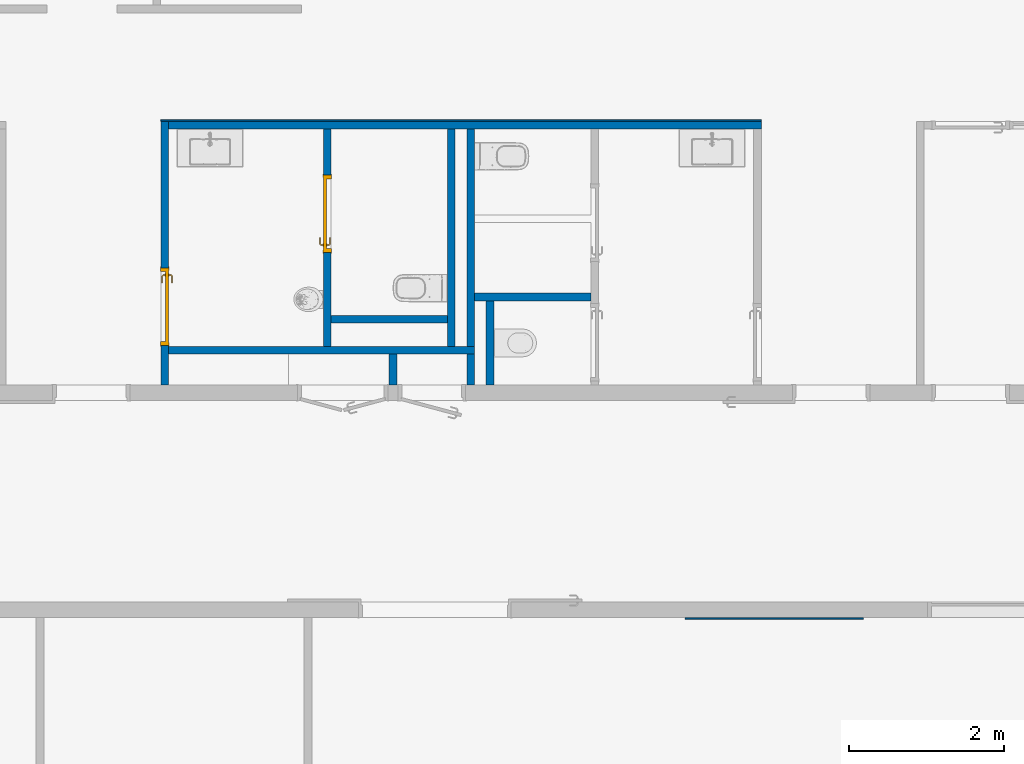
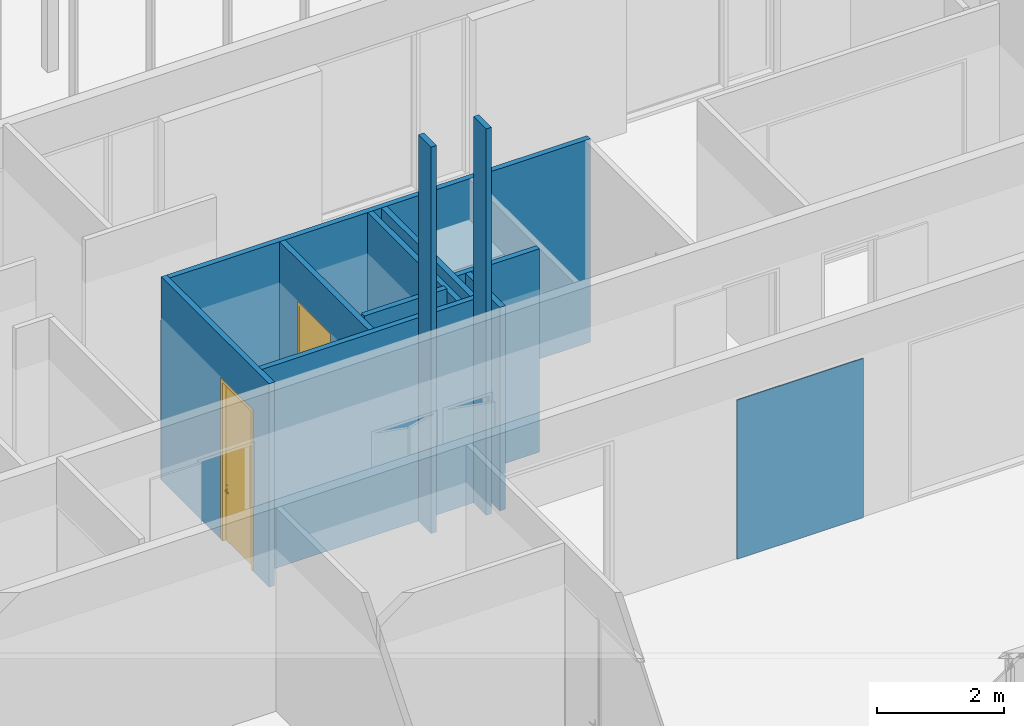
# One storey, part 169 of 240: 13 walls, 2 doors, 2 openings.
"""IFC2X3 building model written with IfcOpenShell, lengths in centimetres."""

from ifc_helpers import new_model, entity, si_unit, converted_unit, derived_unit, direction, frame, frame_2d, origin, place, context, subcontext, project, spatial, polyline, rectangle, extrude, clip, bounded_halfspace, faceted_brep, source, transform, mapped, material, material_list, layer, layer_set, layer_usage, type_object, type_shapes, element, fill, save


model = new_model("IFC2X3")

# Units and contexts
model_context = context("Model", 3, precision=0.001, world=origin(), true_north=direction((6.12303176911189e-17, 1.0)))
body_context = subcontext(model_context, "Body", "Model", "MODEL_VIEW")
ifc_project = project(units=[si_unit("LENGTHUNIT", "METRE", prefix="CENTI"), si_unit("AREAUNIT", "SQUARE_METRE"), si_unit("VOLUMEUNIT", "CUBIC_METRE"), converted_unit("PLANEANGLEUNIT", "DEGREE", entity("IfcRatioMeasure", 0.0174532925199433), si_unit("PLANEANGLEUNIT", "RADIAN"), dimensions=[0, 0, 0, 0, 0, 0, 0]), si_unit("MASSUNIT", "GRAM", prefix="KILO"), derived_unit("MASSDENSITYUNIT", [(si_unit("MASSUNIT", "GRAM", prefix="KILO"), 1), (si_unit("LENGTHUNIT", "METRE"), -3)]), si_unit("TIMEUNIT", "SECOND"), si_unit("FREQUENCYUNIT", "HERTZ"), si_unit("THERMODYNAMICTEMPERATUREUNIT", "DEGREE_CELSIUS"), derived_unit("THERMALTRANSMITTANCEUNIT", [(si_unit("MASSUNIT", "GRAM", prefix="KILO"), 1), (si_unit("THERMODYNAMICTEMPERATUREUNIT", "KELVIN"), -1), (si_unit("TIMEUNIT", "SECOND"), -3)]), derived_unit("VOLUMETRICFLOWRATEUNIT", [(si_unit("LENGTHUNIT", "METRE"), 3), (si_unit("TIMEUNIT", "SECOND"), -1)]), si_unit("ELECTRICCURRENTUNIT", "AMPERE"), si_unit("ELECTRICVOLTAGEUNIT", "VOLT"), si_unit("POWERUNIT", "WATT"), si_unit("FORCEUNIT", "NEWTON", prefix="KILO"), si_unit("ILLUMINANCEUNIT", "LUX"), si_unit("LUMINOUSFLUXUNIT", "LUMEN"), si_unit("LUMINOUSINTENSITYUNIT", "CANDELA"), derived_unit("USERDEFINED", [(si_unit("MASSUNIT", "GRAM", prefix="KILO"), -1), (si_unit("LENGTHUNIT", "METRE"), -2), (si_unit("TIMEUNIT", "SECOND"), 3), (si_unit("LUMINOUSFLUXUNIT", "LUMEN"), 1)]), derived_unit("LINEARVELOCITYUNIT", [(si_unit("LENGTHUNIT", "METRE"), 1), (si_unit("TIMEUNIT", "SECOND"), -1)]), si_unit("PRESSUREUNIT", "PASCAL"), derived_unit("USERDEFINED", [(si_unit("LENGTHUNIT", "METRE"), -2), (si_unit("MASSUNIT", "GRAM", prefix="KILO"), 1), (si_unit("TIMEUNIT", "SECOND"), -2)])], contexts=[model_context])

# Site, building, storey
site_placement = place(None, frame((-2781.94577612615, 7442.24238424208, 0.0)))
site = spatial("IfcSite", under=ifc_project, at=site_placement, Name="Default", CompositionType="ELEMENT")
building_placement = place(site_placement, origin())
building = spatial("IfcBuilding", under=site, at=building_placement, CompositionType="ELEMENT")
storey_placement = place(building_placement, origin())
storey = spatial("IfcBuildingStorey", under=building, at=storey_placement, Name="N00 - COO", CompositionType="ELEMENT", Elevation=0.0)

# Wall
ifc_material_1 = material(Name="01 - Enduit/Plâtre")
ifc_layer_1 = layer(ifc_material_1, 1.3)
ifc_material_2 = material(Name="00 - Isolant")
ifc_layer_2 = layer(ifc_material_2, 7.4)
ifc_layer_3 = layer(ifc_material_1, 1.3)
ifc_layer_set_1 = layer_set([ifc_layer_1, ifc_layer_2, ifc_layer_3], Name="Mur de base:06 - cloisons - Ba13 10cm")
ifc_layer_usage_1 = layer_usage(ifc_layer_set_1, "AXIS2", "NEGATIVE", 5.0)
wall_type_1 = type_object("IfcWallType", Name="Mur de base:06 - cloisons - Ba13 10cm", PredefinedType="STANDARD", material=ifc_layer_set_1)
wall_1_placement = place(building_placement, frame((-1589.49988284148, -1575.0, 0.0), z_axis=(0.0, 0.0, 1.0), x_axis=(-1.0, 0.0, 0.0)))
element("IfcWallStandardCase", 1, at=wall_1_placement, inside=storey, type_object=wall_type_1, material=ifc_layer_usage_1, Name="Mur de base:06 - cloisons - Ba13 10cm", ObjectType="Mur de base:06 - cloisons - Ba13 10cm", context=body_context, shape_type="Clipping", body=[
    clip(extrude(rectangle(XDim=764.500000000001, YDim=9.99999999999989, at=frame_2d((382.25, -5.6843418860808e-14), x_axis=(-1.0, 0.0))), origin(), (0.0, 0.0, 1.0), 391.0), bounded_halfspace(frame((0.0, -5.0, 391.0), z_axis=(0.0, 0.0, -1.0), x_axis=(0.0, -1.0, 0.0)), True, frame((0.0, -5.0, 391.0)), polyline([(0.0, 0.0), (764.5, 0.0), (764.5, 10.0), (565.0, 10.0), (555.0, 10.0), (405.0, 10.0), (395.0, 10.0), (380.0, 10.0), (370.0, 10.0), (220.0, 10.0), (210.0, 10.0), (10.0, 10.0), (0.0, 10.0), (0.0, 0.0)]))),
])

# Wall, opening, door
ifc_layer_usage_2 = layer_usage(ifc_layer_set_1, "AXIS2", "NEGATIVE", 5.0)
wall_2_placement = place(building_placement, frame((-2358.99988284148, -1570.0, 0.0), z_axis=(0.0, 0.0, 1.0), x_axis=(0.0, -1.0, 0.0)))
wall_2 = element("IfcWallStandardCase", 2, at=wall_2_placement, inside=storey, type_object=wall_type_1, material=ifc_layer_usage_2, Name="Mur de base:06 - cloisons - Ba13 10cm", ObjectType="Mur de base:06 - cloisons - Ba13 10cm", context=body_context, shape_type="Clipping", body=[
    clip(extrude(rectangle(XDim=340.079033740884, YDim=10.0000000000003, at=frame_2d((170.039516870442, 3.5527136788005e-15), x_axis=(-1.0, 0.0))), origin(), (0.0, 0.0, 1.0), 391.0), bounded_halfspace(frame((0.0, -5.0, 391.0), z_axis=(0.0, 0.0, -1.0), x_axis=(-1.0, 0.0, 0.0)), True, frame((0.0, -5.0, 391.0)), polyline([(0.0, 0.0), (340.079033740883, 0.0), (340.079033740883, 10.0), (300.079033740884, 10.0), (290.079033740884, 10.0), (10.0, 10.0), (0.0, 10.0), (0.0, 0.0)]))),
])
opening_1_placement = place(wall_2_placement, frame((188.801824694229, -5.0, 0.0)))
opening_1 = element("IfcOpeningElement", 3, at=opening_1_placement, cuts=wall_2, Name="Int. Simple:PP (0.93m x 3.06m):1", ObjectType="Opening", context=body_context, shape_type="SweptSolid", body=[
    extrude(rectangle(XDim=309.500000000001, YDim=99.9999999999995, at=frame_2d((154.750000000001, 49.9999999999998), x_axis=(1.0, 0.0))), frame((0.0, 0.0, 0.0), z_axis=(0.0, 1.0, 0.0), x_axis=(0.0, 0.0, 1.0)), (0.0, 0.0, 1.0), 10.0),
])
ifc_material_3 = material(Name="Finition Peinture - Blanc satiné")
ifc_material_4 = material(Name="Bois - Panneau de porte")
ifc_material_5 = material(Name="Bois - Cadre de porte")
ifc_material_list_1 = material_list([ifc_material_3, ifc_material_4, ifc_material_5])
ifc_material_list_2 = material_list([ifc_material_3, ifc_material_4, ifc_material_5])
door_style = type_object("IfcDoorStyle", Name="PP (0.93m x 3.06m)", ConstructionType="NOTDEFINED", OperationType="SINGLE_SWING_RIGHT", ParameterTakesPrecedence=False, Sizeable=False, material=ifc_material_list_2)
shared_shape = source(origin(), body_context, "Body", "Brep", [
    faceted_brep([(99.5000000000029, -0.500000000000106, 87.0), (99.5000000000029, -0.500000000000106, 108.0), (98.535276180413, -0.500000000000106, 108.399601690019), (97.5000000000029, -0.500000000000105, 108.535898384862), (96.4647238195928, -0.500000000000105, 108.399601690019), (95.500000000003, -0.500000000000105, 108.0), (95.5000000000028, -0.500000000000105, 87.0), (96.4647238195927, -0.500000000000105, 86.6003983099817), (97.5000000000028, -0.500000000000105, 86.464101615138), (98.5352761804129, -0.500000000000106, 86.6003983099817), (99.5000000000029, 0.0, 108.0), (99.5000000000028, 0.0, 87.0), (98.5352761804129, 0.0, 86.6003983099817), (97.5000000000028, 0.0, 86.464101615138), (96.4647238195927, 0.0, 86.6003983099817), (95.5000000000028, 0.0, 87.0), (95.5000000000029, 0.0, 108.0), (96.4647238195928, 0.0, 108.399601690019), (97.5000000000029, 0.0, 108.535898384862), (98.535276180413, 0.0, 108.399601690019)], [[[0, 1, 2, 3, 4, 5, 6, 7, 8, 9]], [[10, 11, 12, 13, 14, 15, 16, 17, 18, 19]], [[9, 12, 11, 0]], [[8, 13, 12, 9]], [[7, 14, 13, 8]], [[7, 6, 15, 14]], [[15, 6, 5, 16]], [[4, 17, 16, 5]], [[3, 18, 17, 4]], [[2, 19, 18, 3]], [[2, 1, 10, 19]], [[11, 10, 1, 0]]]),
    faceted_brep([(99.5000000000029, 4.0, 87.0), (99.5000000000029, 4.0, 108.0), (98.535276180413, 4.0, 108.399601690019), (97.5000000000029, 4.0, 108.535898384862), (96.4647238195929, 4.0, 108.399601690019), (95.500000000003, 4.0, 108.0), (95.5000000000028, 4.0, 87.0), (96.4647238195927, 4.0, 86.6003983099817), (97.5000000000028, 4.0, 86.464101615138), (98.5352761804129, 4.0, 86.6003983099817), (97.5000000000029, 4.49999999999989, 108.535898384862), (98.535276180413, 4.49999999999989, 108.399601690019), (99.5000000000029, 4.49999999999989, 108.0), (99.5000000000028, 4.49999999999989, 87.0), (98.5352761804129, 4.49999999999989, 86.6003983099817), (97.5000000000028, 4.49999999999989, 86.464101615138), (96.4647238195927, 4.49999999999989, 86.6003983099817), (95.5000000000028, 4.49999999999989, 87.0), (95.500000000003, 4.49999999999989, 108.0), (96.4647238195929, 4.49999999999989, 108.399601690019)], [[[0, 1, 2, 3, 4, 5, 6, 7, 8, 9]], [[10, 11, 12, 13, 14, 15, 16, 17, 18, 19]], [[4, 19, 18, 5]], [[3, 10, 19, 4]], [[2, 11, 10, 3]], [[2, 1, 12, 11]], [[13, 12, 1, 0]], [[9, 14, 13, 0]], [[8, 15, 14, 9]], [[7, 16, 15, 8]], [[7, 6, 17, 16]], [[17, 6, 5, 18]]]),
    faceted_brep([(97.2974701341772, -0.50000000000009, 100.778044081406), (97.7025298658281, -0.500000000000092, 100.778044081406), (98.1000000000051, -0.500000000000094, 100.699999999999), (98.100000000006, -0.500000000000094, 99.2999999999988), (97.7025298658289, -0.500000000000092, 99.221955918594), (97.297470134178, -0.50000000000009, 99.2219559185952), (96.9000000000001, -0.500000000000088, 99.3000000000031), (96.9000000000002, -0.500000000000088, 100.7), (97.7025298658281, -3.10045754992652, 100.778044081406), (98.1000000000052, -3.26509507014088, 100.7), (97.2974701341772, -2.93267631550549, 100.778044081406), (95.9298602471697, -4.30028620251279, 100.778044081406), (96.0976414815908, -4.70534593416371, 100.778044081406), (96.9000000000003, -2.76803879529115, 100.7), (96.9000000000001, -2.76803879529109, 99.3000000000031), (97.297470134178, -2.93267631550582, 99.2219559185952), (97.7025298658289, -3.10045754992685, 99.221955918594), (96.0976414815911, -4.70534593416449, 99.221955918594), (95.9298602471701, -4.30028620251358, 99.2219559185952), (98.100000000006, -3.26509507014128, 99.2999999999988), (96.2622790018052, -5.10281606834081, 100.7), (95.7652227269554, -3.90281606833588, 100.7), (95.7652227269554, -3.90281606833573, 99.3000000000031), (96.2622790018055, -5.10281606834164, 99.2999999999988), (87.4981359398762, -5.10281606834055, 100.7), (87.4981359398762, -4.70534593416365, 100.778044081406), (87.4981359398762, -4.30028620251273, 100.778044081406), (87.4981359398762, -3.90281606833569, 100.699999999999), (87.4981359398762, -3.90281606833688, 99.3000000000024), (87.4981359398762, -4.30028620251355, 99.2219559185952), (87.4981359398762, -4.70534593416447, 99.221955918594), (87.4981359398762, -5.10281606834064, 99.2999999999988), (91.7139980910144, -4.5028160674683, 100.78786867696), (92.2692302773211, -5.1028160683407, 100.7), (91.6316793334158, -3.9028160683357, 100.7), (91.631679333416, -3.9028160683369, 99.3000000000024), (91.7139981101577, -4.50281607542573, 99.2121313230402), (92.2692310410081, -5.10281606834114, 99.2999999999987)], [[[0, 1, 2, 3, 4, 5, 6, 7]], [[2, 1, 8, 9]], [[1, 0, 10, 11, 12, 8]], [[0, 7, 13, 10]], [[14, 13, 7, 6]], [[5, 15, 14, 6]], [[5, 4, 16, 17, 18, 15]], [[3, 19, 16, 4]], [[9, 19, 3, 2]], [[9, 8, 12, 20]], [[10, 13, 21, 11]], [[22, 21, 13, 14]], [[14, 15, 18, 22]], [[16, 19, 23, 17]], [[20, 23, 19, 9]], [[24, 25, 26, 27, 28, 29, 30, 31]], [[32, 25, 33]], [[33, 25, 24]], [[33, 20, 12]], [[11, 34, 32]], [[34, 11, 21]], [[27, 26, 34]], [[32, 26, 25]], [[32, 34, 26]], [[32, 33, 12]], [[11, 32, 12]], [[21, 22, 35, 28, 27, 34]], [[36, 29, 35]], [[30, 36, 37]], [[18, 35, 22]], [[29, 28, 35]], [[30, 37, 31]], [[37, 17, 23]], [[36, 17, 37]], [[36, 18, 17]], [[36, 35, 18]], [[29, 36, 30]], [[23, 20, 33, 24, 31, 37]]]),
    faceted_brep([(97.2974701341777, 4.49999999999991, 99.2219559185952), (97.7025298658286, 4.49999999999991, 99.221955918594), (98.1000000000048, 4.4999999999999, 99.2999999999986), (98.1000000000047, 4.4999999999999, 100.7), (97.7025298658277, 4.49999999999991, 100.778044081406), (97.2974701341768, 4.49999999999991, 100.778044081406), (96.8999999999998, 4.49999999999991, 100.7), (96.900000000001, 4.49999999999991, 99.3000000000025), (96.8999999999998, 6.7485204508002, 100.7), (96.8999999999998, 6.74852045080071, 99.3000000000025), (97.2974701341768, 6.91315797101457, 100.778044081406), (97.7025298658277, 7.0809392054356, 100.778044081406), (96.0838906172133, 8.69957845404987, 100.778044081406), (95.9161093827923, 8.29451872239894, 100.778044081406), (98.1000000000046, 7.24557672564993, 100.7), (98.1000000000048, 7.24557672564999, 99.2999999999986), (97.7025298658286, 7.08093920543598, 99.221955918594), (97.2974701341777, 6.91315797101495, 99.2219559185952), (95.9161093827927, 8.29451872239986, 99.2219559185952), (96.0838906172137, 8.69957845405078, 99.221955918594), (95.751471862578, 7.89704858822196, 100.7), (95.7514718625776, 7.89704858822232, 99.3000000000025), (96.2485281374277, 9.09704858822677, 100.7), (96.2485281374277, 9.09704858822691, 99.2999999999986), (87.4954216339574, 8.29451872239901, 100.778044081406), (87.4954216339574, 8.69957845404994, 100.778044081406), (87.4954216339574, 9.09704858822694, 100.7), (87.4954216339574, 9.09704858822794, 99.2999999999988), (87.4954216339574, 8.6995784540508, 99.221955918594), (87.4954216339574, 8.29451872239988, 99.2219559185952), (87.4954216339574, 7.89704858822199, 99.3000000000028), (87.4954216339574, 7.89704858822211, 100.7), (91.6234467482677, 7.89704858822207, 100.7), (91.6234479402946, 7.89704858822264, 99.3000000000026), (91.7057655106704, 8.49704858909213, 100.78786867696), (92.255479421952, 9.09704858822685, 100.7), (92.2554795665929, 9.09704858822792, 99.2999999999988), (91.7057654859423, 8.49704858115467, 99.2121313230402)], [[[0, 1, 2, 3, 4, 5, 6, 7]], [[8, 9, 7, 6]], [[5, 10, 8, 6]], [[5, 4, 11, 12, 13, 10]], [[3, 14, 11, 4]], [[14, 3, 2, 15]], [[2, 1, 16, 15]], [[1, 0, 17, 18, 19, 16]], [[0, 7, 9, 17]], [[20, 21, 9, 8]], [[8, 10, 13, 20]], [[14, 22, 12, 11]], [[23, 22, 14, 15]], [[15, 16, 19, 23]], [[17, 9, 21, 18]], [[24, 25, 26, 27, 28, 29, 30, 31]], [[21, 20, 32, 31, 30, 33]], [[34, 24, 32]], [[25, 34, 35]], [[13, 32, 20]], [[24, 31, 32]], [[25, 35, 26]], [[35, 12, 22]], [[34, 12, 35]], [[34, 13, 12]], [[34, 32, 13]], [[24, 34, 25]], [[22, 23, 36, 27, 26, 35]], [[37, 28, 36]], [[36, 28, 27]], [[36, 23, 19]], [[18, 33, 37]], [[33, 18, 21]], [[30, 29, 33]], [[37, 29, 28]], [[37, 33, 29]], [[37, 36, 19]], [[18, 37, 19]]]),
    faceted_brep([(103.500000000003, 4.0, 306.0), (103.500000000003, 4.0, 0.0), (10.5000000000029, 4.0, 0.0), (10.5000000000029, 4.0, 306.0), (103.500000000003, 0.0, 306.0), (10.5000000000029, 0.0, 306.0), (10.5000000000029, 0.0, 0.0), (103.500000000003, 0.0, 0.0)], [[[0, 1, 2, 3]], [[4, 5, 6, 7]], [[3, 5, 4, 0]], [[2, 6, 5, 3]], [[1, 7, 6, 2]], [[0, 4, 7, 1]]]),
    faceted_brep([(107.0, 10.0, 0.0), (107.0, 0.0, 0.0), (108.500000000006, 0.0, 0.0), (108.500000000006, -0.500000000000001, 0.0), (103.500000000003, -0.500000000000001, 0.0), (103.500000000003, 4.0, 0.0), (102.0, 4.0, 0.0), (102.0, 10.5000000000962, 0.0), (108.500000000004, 10.5000000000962, 0.0), (108.500000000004, 10.0, 0.0), (108.500000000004, 10.0, 311.0), (5.50000000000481, 10.0, 311.0), (5.50000000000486, 10.0, 0.0), (7.0, 10.0, 0.0), (7.0, 10.0, 309.500000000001), (107.0, 10.0, 309.500000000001), (108.500000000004, 10.5000000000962, 311.0), (102.0, 10.5000000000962, 304.5), (12.0, 10.5000000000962, 304.5), (12.0, 10.5000000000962, 0.0), (5.50000000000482, 10.5000000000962, 0.0), (5.50000000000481, 10.5000000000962, 311.0), (102.0, 4.0, 304.5), (103.500000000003, 4.0, 306.0), (10.5000000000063, 4.0, 306.0), (10.5000000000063, 4.0, 0.0), (12.0, 4.0, 0.0), (12.0, 4.0, 304.5), (103.500000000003, -0.500000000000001, 306.0), (108.500000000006, -0.500000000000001, 311.0), (5.5000000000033, -0.500000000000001, 311.0), (5.50000000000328, -0.500000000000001, 0.0), (10.5000000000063, -0.500000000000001, 0.0), (10.5000000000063, -0.500000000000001, 306.0), (108.500000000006, 0.0, 311.0), (107.0, 0.0, 309.500000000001), (7.0, 0.0, 309.500000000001), (7.0, 0.0, 0.0), (5.5000000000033, 0.0, 0.0), (5.50000000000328, 0.0, 311.0)], [[[0, 1, 2, 3, 4, 5, 6, 7, 8, 9]], [[9, 10, 11, 12, 13, 14, 15, 0]], [[8, 16, 10, 9]], [[7, 17, 18, 19, 20, 21, 16, 8]], [[7, 6, 22, 17]], [[5, 23, 24, 25, 26, 27, 22, 6]], [[5, 4, 28, 23]], [[3, 29, 30, 31, 32, 33, 28, 4]], [[2, 34, 29, 3]], [[1, 35, 36, 37, 38, 39, 34, 2]], [[0, 15, 35, 1]], [[14, 13, 37, 36]], [[13, 12, 20, 19, 26, 25, 32, 31, 38, 37]], [[21, 20, 12, 11]], [[27, 26, 19, 18]], [[33, 32, 25, 24]], [[39, 38, 31, 30]], [[16, 21, 11, 10]], [[22, 27, 18, 17]], [[28, 33, 24, 23]], [[34, 39, 30, 29]], [[15, 14, 36, 35]]]),
])
type_shapes(door_style, [shared_shape])
door_1_placement = place(opening_1_placement, frame((107.0, 10.0, 0.0), z_axis=(0.0, 0.0, 1.0), x_axis=(-1.0, 0.0, 0.0)))
door_1 = element("IfcDoor", 4, at=door_1_placement, inside=storey, type_object=door_style, material=ifc_material_list_1, Name="Int. Simple:PP (0.93m x 3.06m)", ObjectType="Int. Simple:PP (0.93m x 3.06m)", OverallHeight=309.500000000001, OverallWidth=99.9999999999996, context=body_context, shape_type="MappedRepresentation", body=[
    mapped(shared_shape, transform((0.0, 0.0, 0.0), scale=1.0)),
])
fill(opening_1, door_1)

ifc_layer_usage_3 = layer_usage(ifc_layer_set_1, "AXIS2", "NEGATIVE", 5.0)
wall_3_placement = place(building_placement, frame((-2149.49988284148, -1860.07903364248, 0.0), z_axis=(0.0, 0.0, 1.0), x_axis=(0.0, 1.0, 0.0)))
wall_3 = element("IfcWallStandardCase", 5, at=wall_3_placement, inside=storey, type_object=wall_type_1, material=ifc_layer_usage_3, Name="Mur de base:06 - cloisons - Ba13 10cm", ObjectType="Mur de base:06 - cloisons - Ba13 10cm", context=body_context, shape_type="Clipping", body=[
    clip(extrude(rectangle(XDim=280.079033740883, YDim=10.0000000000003, at=frame_2d((140.039516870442, 0.0), x_axis=(-1.0, 0.0))), origin(), (0.0, 0.0, 1.0), 391.0), bounded_halfspace(frame((0.0, -5.0, 391.0), z_axis=(0.0, 0.0, -1.0), x_axis=(1.0, 0.0, 0.0)), True, frame((0.0, -5.0, 391.0)), polyline([(0.0, 0.0), (280.079033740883, 0.0), (280.079033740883, 10.0), (0.0, 10.0), (0.0, 0.0)]))),
])
opening_2_placement = place(wall_3_placement, frame((121.0, -5.0, 0.0)))
opening_2 = element("IfcOpeningElement", 6, at=opening_2_placement, cuts=wall_3, Name="Int. Simple:PP (0.93m x 3.06m):1", ObjectType="Opening", context=body_context, shape_type="SweptSolid", body=[
    extrude(rectangle(XDim=309.500000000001, YDim=99.9999999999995, at=frame_2d((154.750000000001, 49.9999999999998), x_axis=(1.0, 0.0))), frame((0.0, 0.0, 0.0), z_axis=(0.0, 1.0, 0.0), x_axis=(0.0, 0.0, 1.0)), (0.0, 0.0, 1.0), 10.0),
])
ifc_material_list_3 = material_list([ifc_material_3, ifc_material_4, ifc_material_5])
door_2_placement = place(opening_2_placement, frame((107.0, 10.0, 0.0), z_axis=(0.0, 0.0, 1.0), x_axis=(-1.0, 0.0, 0.0)))
door_2 = element("IfcDoor", 7, at=door_2_placement, inside=storey, type_object=door_style, material=ifc_material_list_3, Name="Int. Simple:PP (0.93m x 3.06m)", ObjectType="Int. Simple:PP (0.93m x 3.06m)", OverallHeight=309.500000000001, OverallWidth=99.9999999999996, context=body_context, shape_type="MappedRepresentation", body=[
    mapped(shared_shape, transform((0.0, 0.0, 0.0), scale=1.0)),
])
fill(opening_2, door_2)

# Walls
ifc_layer_usage_4 = layer_usage(ifc_layer_set_1, "AXIS2", "NEGATIVE", 5.0)
wall_4_placement = place(building_placement, frame((-1989.49988284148, -1860.07903364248, 0.0), z_axis=(0.0, 0.0, 1.0), x_axis=(0.0, 1.0, 0.0)))
element("IfcWallStandardCase", 8, at=wall_4_placement, inside=storey, type_object=wall_type_1, material=ifc_layer_usage_4, Name="Mur de base:06 - cloisons - Ba13 10cm", ObjectType="Mur de base:06 - cloisons - Ba13 10cm", context=body_context, shape_type="Clipping", body=[
    clip(extrude(rectangle(XDim=280.079033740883, YDim=10.0000000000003, at=frame_2d((140.039516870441, 1.02584607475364e-13), x_axis=(-1.0, 0.0))), origin(), (0.0, 0.0, 1.0), 391.0), bounded_halfspace(frame((0.0, -5.0, 391.0), z_axis=(0.0, 0.0, -1.0), x_axis=(1.0, 0.0, 0.0)), True, frame((0.0, -5.0, 391.0)), polyline([(0.0, 0.0), (280.079033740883, 0.0), (280.079033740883, 10.0), (0.0, 10.0), (0.0, 0.0)]))),
])
ifc_layer_usage_5 = layer_usage(ifc_layer_set_1, "AXIS2", "NEGATIVE", 5.0)
wall_5_placement = place(building_placement, frame((-1964.49988284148, -1860.07903364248, 0.0), z_axis=(0.0, 0.0, 1.0), x_axis=(0.0, 1.0, 0.0)))
element("IfcWallStandardCase", 9, at=wall_5_placement, inside=storey, type_object=wall_type_1, material=ifc_layer_usage_5, Name="Mur de base:06 - cloisons - Ba13 10cm", ObjectType="Mur de base:06 - cloisons - Ba13 10cm", context=body_context, shape_type="Clipping", body=[
    clip(extrude(rectangle(XDim=280.079033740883, YDim=10.0000000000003, at=frame_2d((140.039516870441, 8.65973959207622e-14), x_axis=(-1.0, 0.0))), origin(), (0.0, 0.0, 1.0), 391.0), bounded_halfspace(frame((0.0, -5.0, 391.0), z_axis=(0.0, 0.0, -1.0), x_axis=(1.0, 0.0, 0.0)), True, frame((0.0, -5.0, 391.0)), polyline([(0.0, 0.0), (58.5790337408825, 0.0), (68.5790337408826, 0.0), (280.079033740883, 0.0), (280.079033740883, 10.0), (0.0, 10.0), (0.0, 0.0)]))),
])
ifc_layer_usage_6 = layer_usage(ifc_layer_set_1, "AXIS2", "NEGATIVE", 5.0)
wall_6_placement = place(building_placement, frame((-2353.99988284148, -1865.07903364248, 0.0)))
element("IfcWallStandardCase", 10, at=wall_6_placement, inside=storey, type_object=wall_type_1, material=ifc_layer_usage_6, Name="Mur de base:06 - cloisons - Ba13 10cm", ObjectType="Mur de base:06 - cloisons - Ba13 10cm", context=body_context, shape_type="Clipping", body=[
    clip(extrude(rectangle(XDim=394.5, YDim=9.99999999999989, at=frame_2d((197.25, 0.0), x_axis=(-1.0, 0.0))), origin(), (0.0, 0.0, 1.0), 391.0), bounded_halfspace(frame((0.0, -5.0, 391.0), z_axis=(0.0, 0.0, -1.0), x_axis=(0.0, 1.0, 0.0)), True, frame((0.0, -5.0, 391.0)), polyline([(0.0, 0.0), (394.5, 0.0), (394.5, 10.0), (384.500000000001, 10.0), (369.5, 10.0), (359.500000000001, 10.0), (209.5, 10.0), (199.500000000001, 10.0), (0.0, 10.0), (0.0, 0.0)]))),
])
ifc_layer_usage_7 = layer_usage(ifc_layer_set_1, "AXIS2", "NEGATIVE", 5.0)
wall_7_placement = place(building_placement, frame((-1964.49988284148, -1870.07903364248, 0.0), z_axis=(0.0, 0.0, 1.0), x_axis=(0.0, -1.0, 0.0)))
element("IfcWallStandardCase", 11, at=wall_7_placement, inside=storey, type_object=wall_type_1, material=ifc_layer_usage_7, Name="Mur de base:06 - cloisons - Ba13 10cm", ObjectType="Mur de base:06 - cloisons - Ba13 10cm", context=body_context, shape_type="Clipping", body=[
    clip(extrude(rectangle(XDim=40.0000000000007, YDim=10.0000000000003, at=frame_2d((20.0000000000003, 0.0), x_axis=(-1.0, 0.0))), origin(), (0.0, 0.0, 1.0), 743.0), bounded_halfspace(frame((0.0, -5.0, 743.0), z_axis=(0.0, 0.0, -1.0), x_axis=(-1.0, 0.0, 0.0)), True, frame((0.0, -5.0, 743.0)), polyline([(0.0, 0.0), (0.170370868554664, 0.0), (40.0, 0.0), (40.0, 10.0), (0.0, 10.0), (0.0, 0.0)]))),
])
ifc_layer_usage_8 = layer_usage(ifc_layer_set_1, "AXIS2", "NEGATIVE", 5.0)
wall_8_placement = place(building_placement, frame((-2064.49988284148, -1870.07903364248, 0.0), z_axis=(0.0, 0.0, 1.0), x_axis=(0.0, -1.0, 0.0)))
element("IfcWallStandardCase", 12, at=wall_8_placement, inside=storey, type_object=wall_type_1, material=ifc_layer_usage_8, Name="Mur de base:06 - cloisons - Ba13 10cm", ObjectType="Mur de base:06 - cloisons - Ba13 10cm", context=body_context, shape_type="Clipping", body=[
    clip(extrude(rectangle(XDim=40.0000000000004, YDim=9.99999999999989, at=frame_2d((20.0000000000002, 2.16715534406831e-13), x_axis=(-1.0, 0.0))), origin(), (0.0, 0.0, 1.0), 743.0), bounded_halfspace(frame((0.170370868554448, -5.0, 743.0), z_axis=(0.0, 0.0, -1.0), x_axis=(-1.0, 0.0, 0.0)), True, frame((0.170370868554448, -5.0, 743.0)), polyline([(0.0, 0.0), (39.8296291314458, 0.0), (39.8296291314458, 10.0), (0.0, 10.0), (0.0, 0.0)]))),
])
ifc_layer_usage_9 = layer_usage(ifc_layer_set_1, "AXIS2", "POSITIVE", -5.0)
wall_9_placement = place(storey_placement, frame((-1959.49988284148, -1796.4999999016, 0.0)))
element("IfcWallStandardCase", 13, at=wall_9_placement, inside=storey, type_object=wall_type_1, material=ifc_layer_usage_9, Name="Mur de base:06 - cloisons - Ba13 10cm", ObjectType="Mur de base:06 - cloisons - Ba13 10cm", context=body_context, shape_type="Clipping", body=[
    clip(extrude(rectangle(XDim=150.0, YDim=9.99999999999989, at=frame_2d((74.9999999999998, -1.15463194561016e-14), x_axis=(-1.0, 0.0))), origin(), (0.0, 0.0, 1.0), 391.0), bounded_halfspace(frame((0.0, -5.0, 391.0), z_axis=(0.0, 0.0, -1.0), x_axis=(0.0, 1.0, 0.0)), True, frame((0.0, -5.0, 391.0)), polyline([(0.0, 0.0), (15.0, 0.0), (25.0, 0.0), (150.0, 0.0), (150.0, 10.0), (0.0, 10.0), (0.0, 0.0)]))),
])
ifc_layer_usage_10 = layer_usage(ifc_layer_set_1, "AXIS2", "NEGATIVE", 5.0)
wall_10_placement = place(building_placement, frame((-1939.49988284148, -1801.4999999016, 0.0), z_axis=(0.0, 0.0, 1.0), x_axis=(0.0, -1.0, 0.0)))
element("IfcWallStandardCase", 14, at=wall_10_placement, inside=storey, type_object=wall_type_1, material=ifc_layer_usage_10, Name="Mur de base:06 - cloisons - Ba13 10cm", ObjectType="Mur de base:06 - cloisons - Ba13 10cm", context=body_context, shape_type="Clipping", body=[
    clip(extrude(rectangle(XDim=108.579033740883, YDim=9.99999999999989, at=frame_2d((54.2895168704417, 0.0), x_axis=(-1.0, 0.0))), origin(), (0.0, 0.0, 1.0), 391.0), bounded_halfspace(frame((0.0, -5.0, 391.0), z_axis=(0.0, 0.0, -1.0), x_axis=(-1.0, 0.0, 0.0)), True, frame((0.0, -5.0, 391.0)), polyline([(0.0, 0.0), (108.579033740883, 0.0), (108.579033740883, 10.0), (0.0, 10.0), (0.0, 0.0)]))),
])
ifc_layer_usage_11 = layer_usage(ifc_layer_set_1, "AXIS2", "NEGATIVE", 5.0)
wall_11_placement = place(building_placement, frame((-2144.49988284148, -1825.07903364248, 0.0)))
element("IfcWallStandardCase", 15, at=wall_11_placement, inside=storey, type_object=wall_type_1, material=ifc_layer_usage_11, Name="Mur de base:06 - cloisons - Ba13 10cm", ObjectType="Mur de base:06 - cloisons - Ba13 10cm", context=body_context, shape_type="SweptSolid", body=[
    extrude(rectangle(XDim=150.0, YDim=9.99999999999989, at=frame_2d((75.0000000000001, 0.0), x_axis=(-1.0, 0.0))), origin(), (0.0, 0.0, 1.0), 396.0),
])
ifc_material_6 = material(Name="Pin")
ifc_layer_4 = layer(ifc_material_6, 2.0)
ifc_layer_set_2 = layer_set([ifc_layer_4], Name="Mur de base:06 - habillage bois collée 2cm")
ifc_layer_usage_12 = layer_usage(ifc_layer_set_2, "AXIS2", "NEGATIVE", 1.0)
wall_type_2 = type_object("IfcWallType", Name="Mur de base:06 - habillage bois collée 2cm", PredefinedType="STANDARD", material=ifc_layer_set_2)
wall_12_placement = place(storey_placement, frame((-1687.7856102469, -2211.15656731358, 0.0)))
element("IfcWallStandardCase", 16, at=wall_12_placement, inside=storey, type_object=wall_type_2, material=ifc_layer_usage_12, Name="Mur de base:06 - habillage bois collée 2cm", ObjectType="Mur de base:06 - habillage bois collée 2cm", context=body_context, shape_type="SweptSolid", body=[
    extrude(rectangle(XDim=230.019148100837, YDim=2.00000000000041, at=frame_2d((115.009574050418, -1.27675647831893e-13), x_axis=(-1.0, 0.0))), origin(), (0.0, 0.0, 1.0), 306.0),
])
ifc_layer_usage_13 = layer_usage(ifc_layer_set_2, "AXIS2", "NEGATIVE", 1.0)
wall_13_placement = place(storey_placement, frame((-2363.99988284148, -1569.0, 0.0)))
element("IfcWallStandardCase", 17, at=wall_13_placement, inside=storey, type_object=wall_type_2, material=ifc_layer_usage_13, Name="Mur de base:06 - habillage bois collée 2cm", ObjectType="Mur de base:06 - habillage bois collée 2cm", context=body_context, shape_type="SweptSolid", body=[
    extrude(rectangle(XDim=774.5, YDim=1.99999999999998, at=frame_2d((387.25, 5.42343947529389e-14), x_axis=(-1.0, 0.0))), origin(), (0.0, 0.0, 1.0), 306.0),
])

save(model, "model.ifc")
